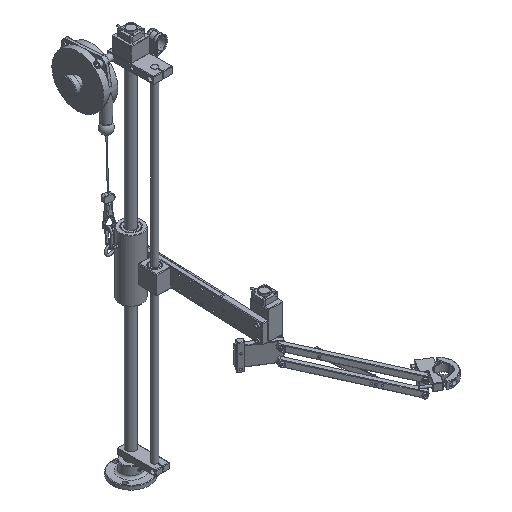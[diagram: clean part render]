
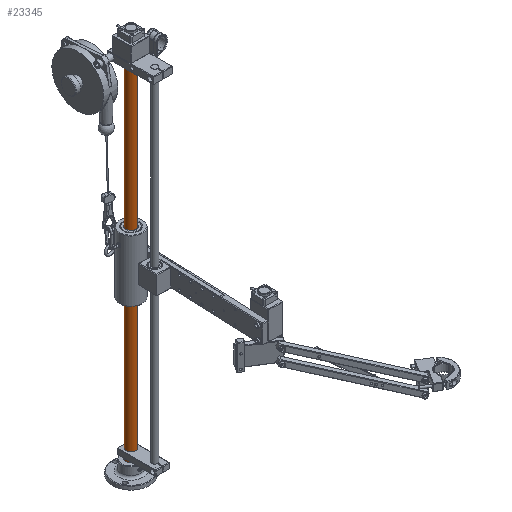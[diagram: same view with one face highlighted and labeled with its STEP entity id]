
A CAD part, isometric view. The second image highlights one B-rep face of the part: STEP entity #23345.
In plain terms, the highlighted cylindrical face has radius 10 mm (diameter 20 mm), a full revolution.
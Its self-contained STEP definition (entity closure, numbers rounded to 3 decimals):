
#2564=CYLINDRICAL_SURFACE('',#25792,10.);
#10403=ORIENTED_EDGE('',*,*,#13898,.T.);
#10404=ORIENTED_EDGE('',*,*,#13897,.T.);
#13897=EDGE_CURVE('',#16073,#16073,#17192,.T.);
#13898=EDGE_CURVE('',#16074,#16074,#17193,.T.);
#16073=VERTEX_POINT('',#49996);
#16074=VERTEX_POINT('',#49999);
#17192=CIRCLE('',#25791,10.);
#17193=CIRCLE('',#25793,10.);
#19116=EDGE_LOOP('',(#10403));
#19117=EDGE_LOOP('',(#10404));
#21130=FACE_BOUND('',#19116,.T.);
#21131=FACE_BOUND('',#19117,.T.);
#23345=ADVANCED_FACE('',(#21130,#21131),#2564,.T.);
#25791=AXIS2_PLACEMENT_3D('',#49995,#31615,#31616);
#25792=AXIS2_PLACEMENT_3D('',#49997,#31617,#31618);
#25793=AXIS2_PLACEMENT_3D('',#49998,#31619,#31620);
#31615=DIRECTION('',(0.,0.,-1.));
#31616=DIRECTION('',(-1.,0.,0.));
#31617=DIRECTION('',(0.,0.,-1.));
#31618=DIRECTION('',(-1.,0.,0.));
#31619=DIRECTION('',(0.,0.,1.));
#31620=DIRECTION('',(-1.,0.,0.));
#49995=CARTESIAN_POINT('',(0.,0.,799.));
#49996=CARTESIAN_POINT('',(-10.,0.,799.));
#49997=CARTESIAN_POINT('',(0.,0.,800.));
#49998=CARTESIAN_POINT('',(0.,0.,35.));
#49999=CARTESIAN_POINT('',(-10.,0.,35.));
